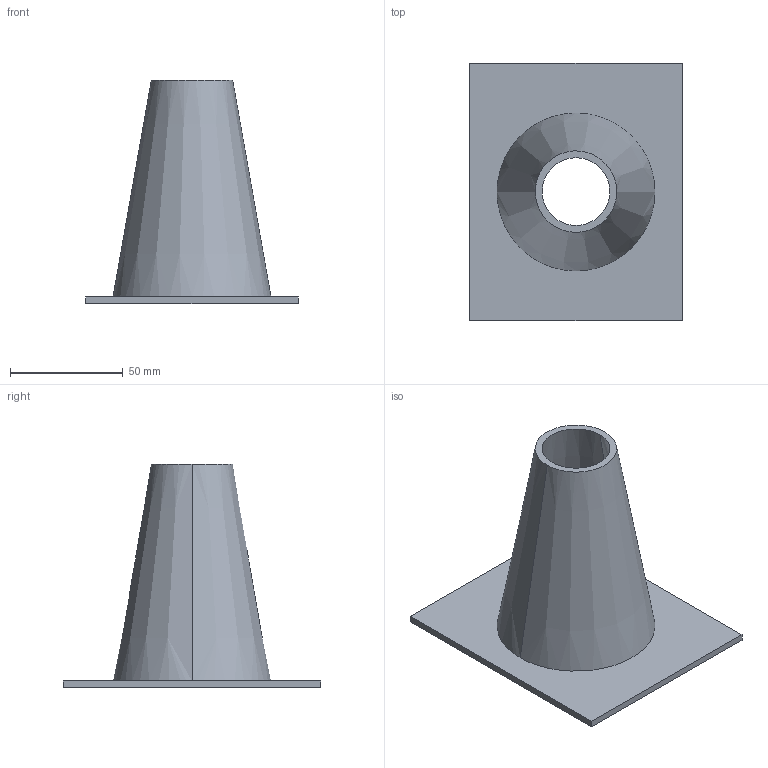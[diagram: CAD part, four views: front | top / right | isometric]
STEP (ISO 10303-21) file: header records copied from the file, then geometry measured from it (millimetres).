
FILE_DESCRIPTION(('CATIA V5 STEP Exchange'),'2;1');
FILE_NAME('C:\_Andres\UNIVERSIDAD\IQS\ASIGNATURAS\DAO\EXF\EXF-15161c\1original\Casals_Vilar_Ej08-ensambla_v4.stp','2016-03-04T21:37:15+00:00',('none'),('none'),'CATIA Version 5 Release 20 SP 1 (IN-10)','CATIA V5 STEP AP203','none');
FILE_SCHEMA(('CONFIG_CONTROL_DESIGN'));
Length unit declared in the file: millimetre
Products named in the file (1): Casals_Vilar_Ej08-ensambla_v4
Bounding box: 94 x 114 x 99 mm (x, y, z)
Volume: 68293.1 mm3; surface area: 47068.8 mm2
Topology: 1 solids, 1 shells, 11 faces, 24 edges, 16 vertices
Faces by surface type: plane 7, cone 4
Entity records: 414 total; most frequent: CARTESIAN_POINT 127, ORIENTED_EDGE 48, DIRECTION 44, EDGE_CURVE 24, AXIS2_PLACEMENT_3D 17, VECTOR 16, LINE 16, VERTEX_POINT 16
